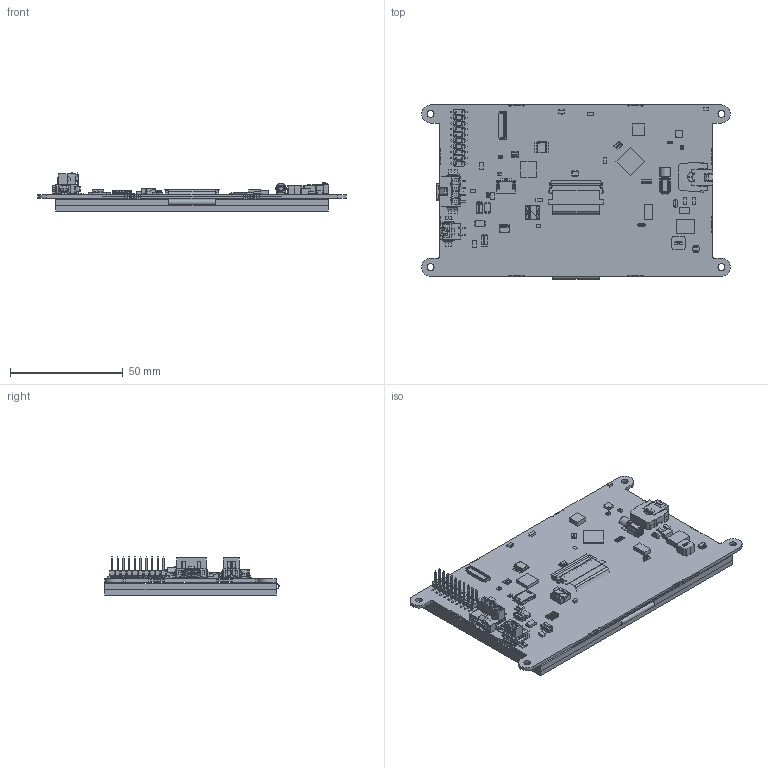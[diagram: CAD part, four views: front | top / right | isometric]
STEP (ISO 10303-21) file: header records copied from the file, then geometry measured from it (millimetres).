
FILE_DESCRIPTION (( 'STEP AP214' ), '1' );
FILE_NAME ('EVE3x50A-IPS-TPC(A) RevA.STEP', '2025-06-25T21:10:40', ( '' ), ( '' ), 'SwSTEP 2.0', 'SolidWorks 2021', '' );
FILE_SCHEMA (( 'AUTOMOTIVE_DESIGN' ));
Length unit declared in the file: millimetre
Products named in the file (3): MOPTFT800480-50 (IPS) TPC(A); EVE3x50A R1.0.4 Assembly; EVE3x50A-IPS-TPC(A) RevA
Assembly tree (2 placements, depth 2):
  EVE3x50A-IPS-TPC(A) RevA
    EVE3x50A R1.0.4 Assembly
    MOPTFT800480-50 (IPS) TPC(A)
Bounding box: 136.7 x 77.06 x 16.82 mm (x, y, z)
Volume: 48063 mm3; surface area: 74235.5 mm2
Topology: 5 solids, 184 shells, 10596 faces, 27522 edges, 17467 vertices
Faces by surface type: plane 7702, cylinder 1503, bspline 1229, sphere 114, torus 32, cone 16
Entity records: 475694 total; most frequent: CARTESIAN_POINT 114776, ORIENTED_EDGE 54688, DIRECTION 45244, EDGE_CURVE 27442, LINE 20952, VECTOR 20952, VERTEX_POINT 17467, AXIS2_PLACEMENT_3D 12146
